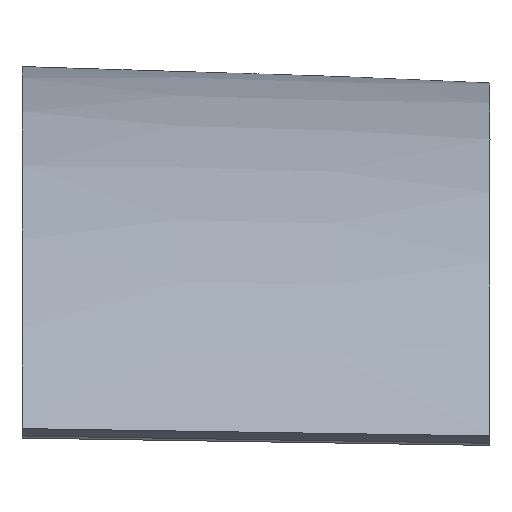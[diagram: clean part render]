
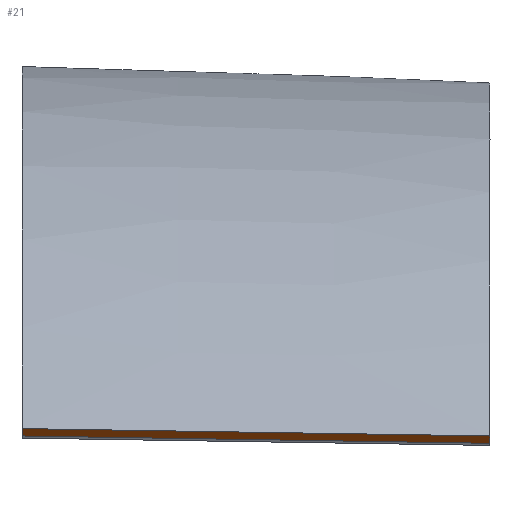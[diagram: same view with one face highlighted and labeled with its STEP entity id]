
A CAD part, top view. The second image highlights one B-rep face of the part: STEP entity #21.
In plain terms, the highlighted free-form (B-spline) face has degree [1, 3] with [2, 4] control points.
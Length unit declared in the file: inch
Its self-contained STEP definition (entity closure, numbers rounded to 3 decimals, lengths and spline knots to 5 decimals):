
#21 = ADVANCED_FACE ( 'NONE', ( #858 ), #783, .T. ) ;
#68 = B_SPLINE_CURVE_WITH_KNOTS ( 'NONE', 1,
 ( #588, #529 ),
 .UNSPECIFIED., .F., .F.,
 ( 2, 2 ),
 ( 0., 1. ),
 .UNSPECIFIED. ) ;
#70 = CARTESIAN_POINT ( 'NONE',  ( -7.97657, -101.3898, 31.97864 ) ) ;
#86 = CARTESIAN_POINT ( 'NONE',  ( 0., -101.89186, 31.11423 ) ) ;
#90 = CARTESIAN_POINT ( 'NONE',  ( -16., -101.64185, 31.54724 ) ) ;
#119 = CARTESIAN_POINT ( 'NONE',  ( -8., -101.76685, 31.33073 ) ) ;
#124 = EDGE_CURVE ( 'NONE', #525, #724, #194, .T. ) ;
#150 = EDGE_CURVE ( 'NONE', #391, #525, #715, .T. ) ;
#175 = VERTEX_POINT ( 'NONE', #386 ) ;
#194 = B_SPLINE_CURVE_WITH_KNOTS ( 'NONE', 1,
 ( #86, #357 ),
 .UNSPECIFIED., .F., .F.,
 ( 2, 2 ),
 ( 0., 1. ),
 .UNSPECIFIED. ) ;
#217 = EDGE_CURVE ( 'NONE', #391, #175, #68, .T. ) ;
#241 = CARTESIAN_POINT ( 'NONE',  ( -24., -101.51685, 31.76375 ) ) ;
#249 = CARTESIAN_POINT ( 'NONE',  ( 0.02343, -101.51479, 31.76212 ) ) ;
#277 = CARTESIAN_POINT ( 'NONE',  ( -15.97657, -101.26482, 32.19516 ) ) ;
#313 = EDGE_CURVE ( 'NONE', #175, #724, #582, .T. ) ;
#323 = CARTESIAN_POINT ( 'NONE',  ( -15.97657, -101.26482, 32.19516 ) ) ;
#357 = CARTESIAN_POINT ( 'NONE',  ( 0.02343, -101.51479, 31.76212 ) ) ;
#362 = CARTESIAN_POINT ( 'NONE',  ( -8., -101.76685, 31.33073 ) ) ;
#376 = CARTESIAN_POINT ( 'NONE',  ( 0., -101.89186, 31.11423 ) ) ;
#381 = EDGE_LOOP ( 'NONE', ( #868, #798, #662, #469 ) ) ;
#385 = CARTESIAN_POINT ( 'NONE',  ( -24., -101.51685, 31.76375 ) ) ;
#386 = CARTESIAN_POINT ( 'NONE',  ( -23.97657, -101.13983, 32.41167 ) ) ;
#391 = VERTEX_POINT ( 'NONE', #241 ) ;
#439 = CARTESIAN_POINT ( 'NONE',  ( -24., -101.51685, 31.76375 ) ) ;
#469 = ORIENTED_EDGE ( 'NONE', *, *, #217, .F. ) ;
#512 = CARTESIAN_POINT ( 'NONE',  ( -23.97657, -101.13983, 32.41167 ) ) ;
#525 = VERTEX_POINT ( 'NONE', #722 ) ;
#529 = CARTESIAN_POINT ( 'NONE',  ( -23.97657, -101.13983, 32.41167 ) ) ;
#582 = B_SPLINE_CURVE_WITH_KNOTS ( 'NONE', 3,
 ( #680, #277, #70, #747 ),
 .UNSPECIFIED., .F., .F.,
 ( 4, 4 ),
 ( 0., 1. ),
 .UNSPECIFIED. ) ;
#588 = CARTESIAN_POINT ( 'NONE',  ( -24., -101.51685, 31.76375 ) ) ;
#594 = CARTESIAN_POINT ( 'NONE',  ( 0.02343, -101.51479, 31.76212 ) ) ;
#636 = CARTESIAN_POINT ( 'NONE',  ( 0., -101.89186, 31.11423 ) ) ;
#662 = ORIENTED_EDGE ( 'NONE', *, *, #313, .F. ) ;
#680 = CARTESIAN_POINT ( 'NONE',  ( -23.97657, -101.13983, 32.41167 ) ) ;
#715 = B_SPLINE_CURVE_WITH_KNOTS ( 'NONE', 3,
 ( #439, #90, #362, #636 ),
 .UNSPECIFIED., .F., .F.,
 ( 4, 4 ),
 ( 0., 1. ),
 .UNSPECIFIED. ) ;
#722 = CARTESIAN_POINT ( 'NONE',  ( 0., -101.89186, 31.11423 ) ) ;
#723 = CARTESIAN_POINT ( 'NONE',  ( -7.97657, -101.3898, 31.97864 ) ) ;
#724 = VERTEX_POINT ( 'NONE', #249 ) ;
#747 = CARTESIAN_POINT ( 'NONE',  ( 0.02343, -101.51479, 31.76212 ) ) ;
#783 = B_SPLINE_SURFACE_WITH_KNOTS ( 'NONE', 1, 3, ( 
 ( #512, #323, #723, #594 ),
 ( #385, #797, #119, #376 ) ),
 .UNSPECIFIED., .F., .F., .F.,
 ( 2, 2 ),
 ( 4, 4 ),
 ( 0., 1. ),
 ( -0.30495, 0.30495 ),
 .UNSPECIFIED. ) ;
#797 = CARTESIAN_POINT ( 'NONE',  ( -16., -101.64185, 31.54724 ) ) ;
#798 = ORIENTED_EDGE ( 'NONE', *, *, #124, .T. ) ;
#858 = FACE_OUTER_BOUND ( 'NONE', #381, .T. ) ;
#868 = ORIENTED_EDGE ( 'NONE', *, *, #150, .T. ) ;
